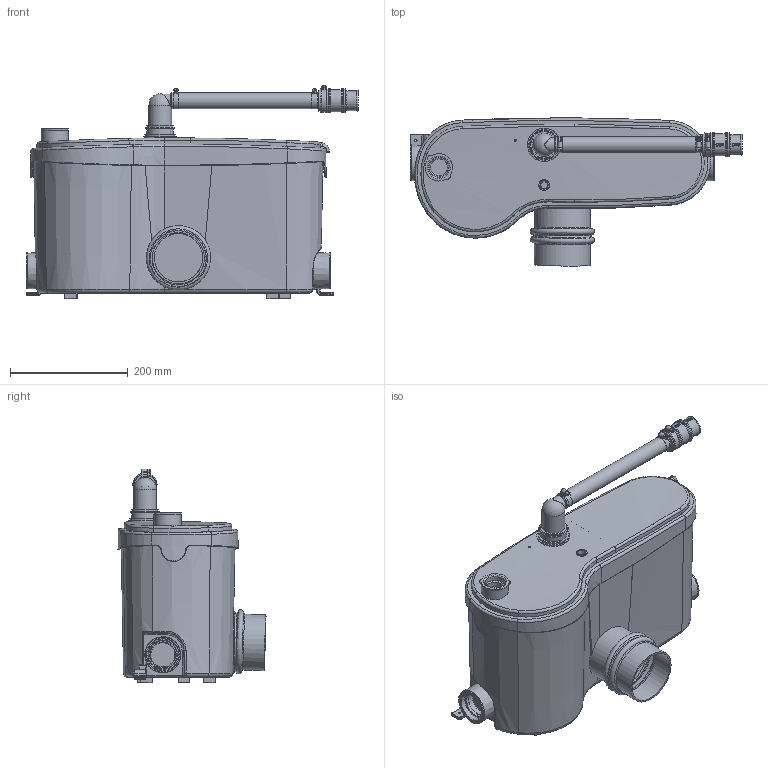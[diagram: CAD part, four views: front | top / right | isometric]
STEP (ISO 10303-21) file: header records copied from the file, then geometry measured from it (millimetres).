
FILE_DESCRIPTION (( 'STEP AP214' ), '1' );
FILE_NAME ('Sanigrind pro USA.STEP', '2018-10-17T12:49:34', ( 'VHUMBERT' ), ( '' ), 'SwSTEP 2.0', 'SolidWorks 2018', '' );
FILE_SCHEMA (( 'AUTOMOTIVE_DESIGN' ));
Length unit declared in the file: millimetre
Products named in the file (1): Sanigrind pro USA
Bounding box: 563.73 x 251.3 x 363.29 mm (x, y, z)
Surface area: 1139281.1 mm2 (no closed solid volume)
Topology: 0 solids, 1 shells, 1310 faces, 3149 edges, 1979 vertices
Faces by surface type: plane 508, cylinder 304, bspline 228, torus 158, cone 100, sphere 12
Full cylindrical faces by diameter (mm): 3 x2, 4 x4, 9 x2, 14.2 x1, 18 x2, 21 x1, 25.6 x1, 26.5 x3, 27.2 x2, 27.3 x1, 28.5 x1, 32 x1, 32.9 x1, 33.3 x1, 34.4 x1, 34.5 x1, 36 x1, 38 x4, 39 x1, 39.2 x1, 41 x4, 42.2 x2, 45 x2, 46 x1, 50 x1, 52 x1, 56.2 x1, 61 x2, 82 x1, 89 x2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
Entity records: 68953 total; most frequent: CARTESIAN_POINT 26277, ORIENTED_EDGE 5942, DIRECTION 5533, EDGE_CURVE 2971, AXIS2_PLACEMENT_3D 2131, VERTEX_POINT 1926, EDGE_LOOP 1577, FACE_OUTER_BOUND 1388
